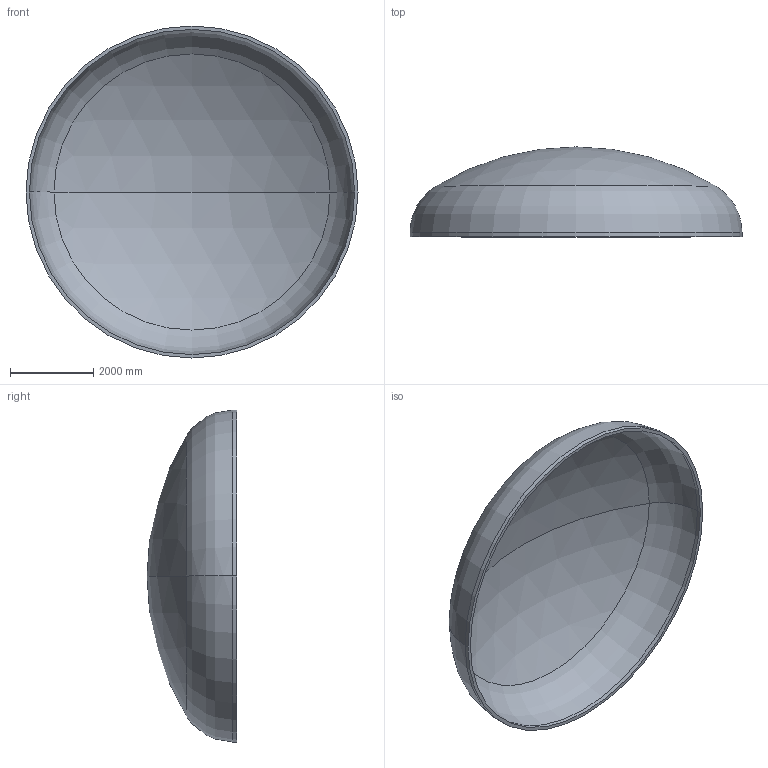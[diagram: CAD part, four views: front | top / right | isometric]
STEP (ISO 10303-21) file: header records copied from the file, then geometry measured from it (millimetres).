
FILE_DESCRIPTION (( 'STEP AP203' ), '1' );
FILE_NAME ('DIN 28013 Korbbogenform_-_Boden DIN 28013 - 8000 x 100 - I - s=82.step', '2016-07-04T11:04:07', ( '' ), ( '' ), 'SwSTEP 2.0', 'SolidWorks 2013', '' );
FILE_SCHEMA (( 'CONFIG_CONTROL_DESIGN' ));
Length unit declared in the file: millimetre
Products named in the file (1): DIN 28013 Korbbogenform_-_Boden DIN 28013 - 8000 x 100 - I - s=82
Bounding box: 8000 x 2165.72 x 8000 mm (x, y, z)
Volume: 5833914672.1 mm3; surface area: 144344389.7 mm2
Topology: 1 solids, 1 shells, 13 faces, 24 edges, 14 vertices
Faces by surface type: torus 4, cylinder 4, sphere 4, plane 1
Entity records: 407 total; most frequent: DIRECTION 72, CARTESIAN_POINT 52, ORIENTED_EDGE 48, AXIS2_PLACEMENT_3D 34, EDGE_CURVE 24, CIRCLE 20, EDGE_LOOP 14, VERTEX_POINT 14
